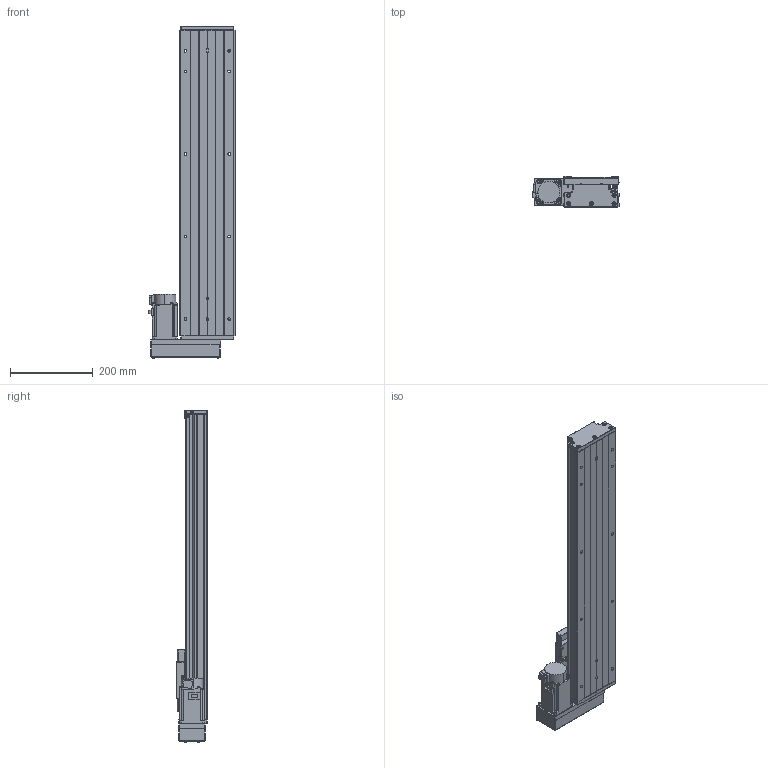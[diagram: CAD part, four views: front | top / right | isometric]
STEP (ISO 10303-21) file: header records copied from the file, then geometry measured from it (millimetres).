
FILE_DESCRIPTION (( 'STEP AP203' ), '1' );
FILE_NAME ('CTH130-550-BL-M40-C4.step', '2023-06-30T02:38:51', ( '微软用户' ), ( '微软中国' ), 'SwSTEP 2.0', 'SolidWorks 2020', '' );
FILE_SCHEMA (( 'CONFIG_CONTROL_DESIGN' ));
Length unit declared in the file: millimetre
Products named in the file (20): GBT 70.1-M3℅5; GTH14-004; GTH14-015-2_CTHA86-015-2; GBT77-2000 M3×3; GTH14-005; GTH14-033; CTH130-031; GB1155-6X6; CTH130-550-BL-M40-C4; GBT 70.2-M3¡Á5_M3¡Á6; GBT70.1 M5℅16; GTH14-001_550; す晦芛蹟隊 M3℅5; CTHA60-017; CTH130-002_GTH14-002; HG-KN43J-S100; EE_SX911P_R; CTHA60-016; GB T308.1-2013-6.35; GBT 70.2-M4¡Á35_M4¡Á35
Assembly tree (60 placements, depth 2):
  CTH130-550-BL-M40-C4
    GTH14-001_550
    CTH130-002_GTH14-002
    GB T308.1-2013-6.35  x2
    GTH14-004
    GTH14-005
    GB1155-6X6  x2
    GBT70.1 M5℅16  x10
    CTHA60-017  x3
    EE_SX911P_R  x3
    CTHA60-016  x2
    GBT 70.1-M3℅5  x6
    GBT77-2000 M3×3  x6
    CTH130-031
    GBT 70.2-M3¡Á5_M3¡Á6  x8
    す晦芛蹟隊 M3℅5  x6
    HG-KN43J-S100
    GBT 70.2-M4¡Á35_M4¡Á35  x4
    GTH14-015-2_CTHA86-015-2
    GTH14-033
Bounding box: 209.3 x 76 x 804.2 mm (x, y, z)
Volume: 4387842.1 mm3; surface area: 759678 mm2
Topology: 63 solids, 63 shells, 2435 faces, 5797 edges, 3585 vertices
Faces by surface type: plane 1310, cylinder 646, cone 299, torus 124, sphere 36, bspline 20
Entity records: 43924 total; most frequent: CARTESIAN_POINT 9847, DIRECTION 6402, ORIENTED_EDGE 6300, EDGE_CURVE 3150, AXIS2_PLACEMENT_3D 2184, VECTOR 2034, LINE 2034, VERTEX_POINT 1995
